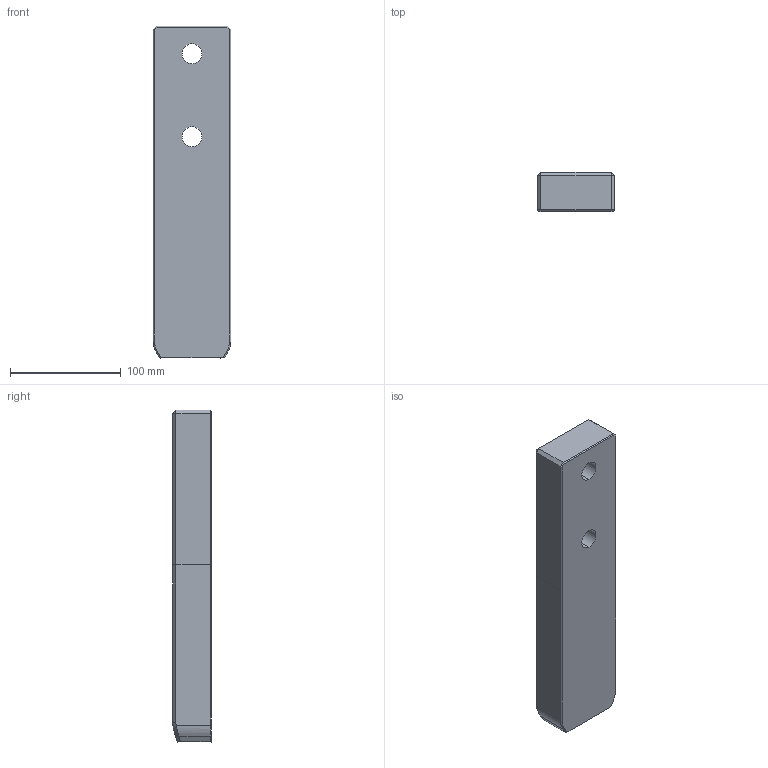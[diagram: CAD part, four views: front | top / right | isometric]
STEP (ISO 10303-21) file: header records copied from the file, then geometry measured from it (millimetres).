
FILE_DESCRIPTION((''),'2;1');
FILE_NAME('','2010-09-08T12:51:30+09:00',('misumi'),(''),'M/STEP i/f 1R2-14','CADmeister v5.1','');
FILE_SCHEMA(('AUTOMOTIVE_DESIGN'));
Length unit declared in the file: millimetre
Products named in the file (1): OGP70-300
Bounding box: 70 x 35 x 300 mm (x, y, z)
Volume: 706013.1 mm3; surface area: 69542.7 mm2
Topology: 1 solids, 1 shells, 49 faces, 114 edges, 68 vertices
Faces by surface type: plane 32, cylinder 9, cone 4, bspline 4
Entity records: 2151 total; most frequent: CARTESIAN_POINT 494, ORIENTED_EDGE 224, DIRECTION 216, COLOUR_RGB 121, CURVE_STYLE 118, PRESENTATION_STYLE_ASSIGNMENT 117, OVER_RIDING_STYLED_ITEM 114, EDGE_CURVE 112
